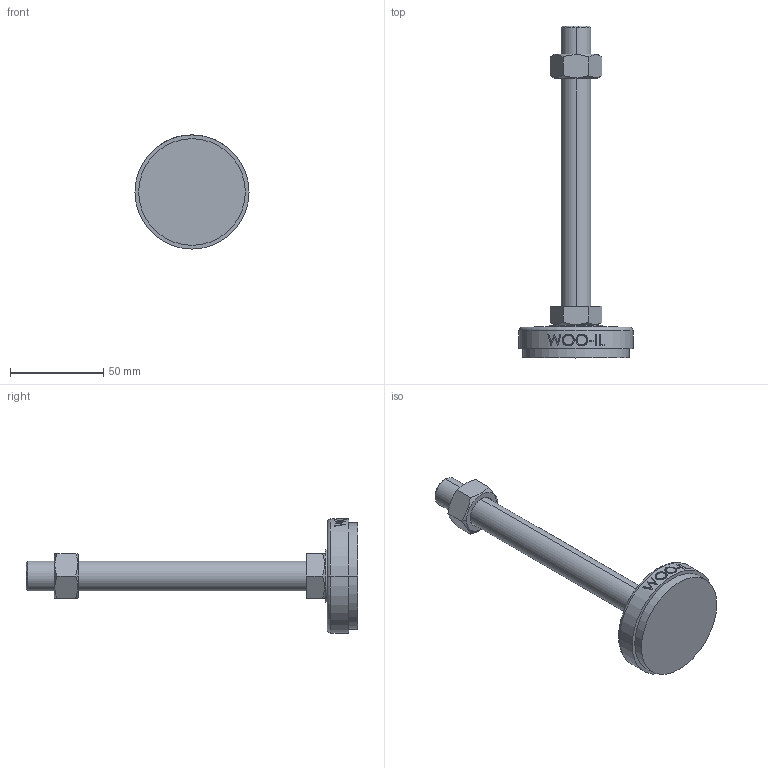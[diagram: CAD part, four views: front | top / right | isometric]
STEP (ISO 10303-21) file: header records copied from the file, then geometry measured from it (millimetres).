
FILE_DESCRIPTION (( 'STEP AP214' ), '1' );
FILE_NAME ('NS61-M16-150.step', '2021-01-11T05:45:44', ( '' ), ( '' ), 'SwSTEP 2.0', 'SolidWorks 2019', '' );
FILE_SCHEMA (( 'AUTOMOTIVE_DESIGN' ));
Length unit declared in the file: millimetre
Products named in the file (2): NS61-M16-150
Bounding box: 61 x 177.5 x 61 mm (x, y, z)
Volume: 85670.8 mm3; surface area: 20394.2 mm2
Topology: 3 solids, 3 shells, 96 faces, 223 edges, 144 vertices
Faces by surface type: plane 48, cylinder 18, bspline 16, cone 12, torus 2
Entity records: 4252 total; most frequent: CARTESIAN_POINT 2127, ORIENTED_EDGE 446, DIRECTION 381, EDGE_CURVE 223, VERTEX_POINT 144, AXIS2_PLACEMENT_3D 142, EDGE_LOOP 109, VECTOR 97
